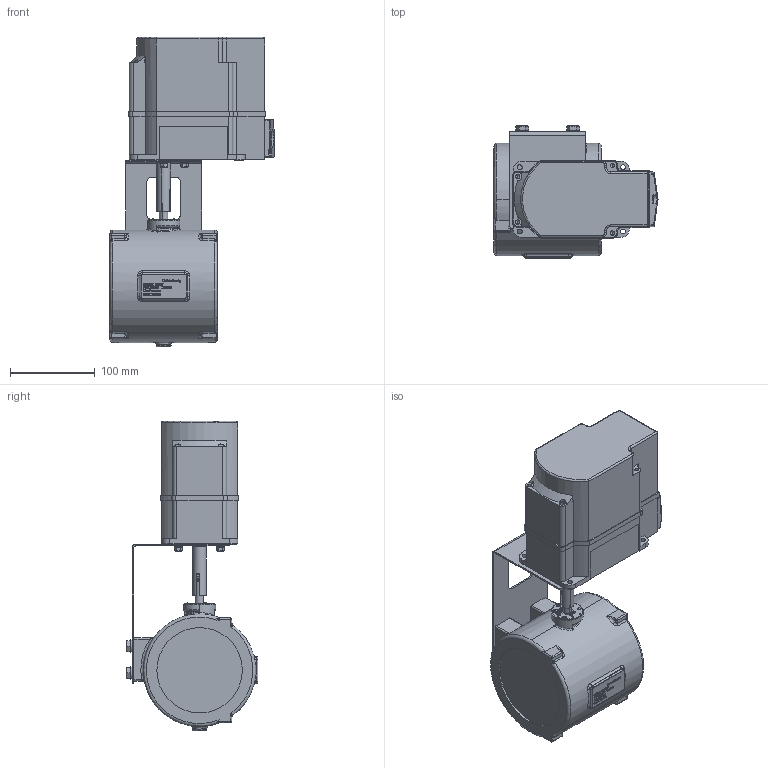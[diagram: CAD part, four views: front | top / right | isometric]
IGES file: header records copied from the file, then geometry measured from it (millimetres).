
Global section: file name: No Iges File Name specified; native system: AutoDesk Inventor R12.0; preprocessor: AutoDesk Inventor Iges Exporter R12.0; date: 20110328.100110; units: millimetre
Bounding box: 193.99 x 156.06 x 366 mm (x, y, z)
Volume: 3598309.2 mm3; surface area: 293877.7 mm2
Topology: 1 solids, 14 shells, 2937 faces, 7871 edges, 5123 vertices
Faces by surface type: plane 1521, bspline 1023, cylinder 184, revolution 101, cone 67, torus 31, sphere 10
Full cylindrical faces by diameter (mm): 9.2 x3, 14.8 x4
